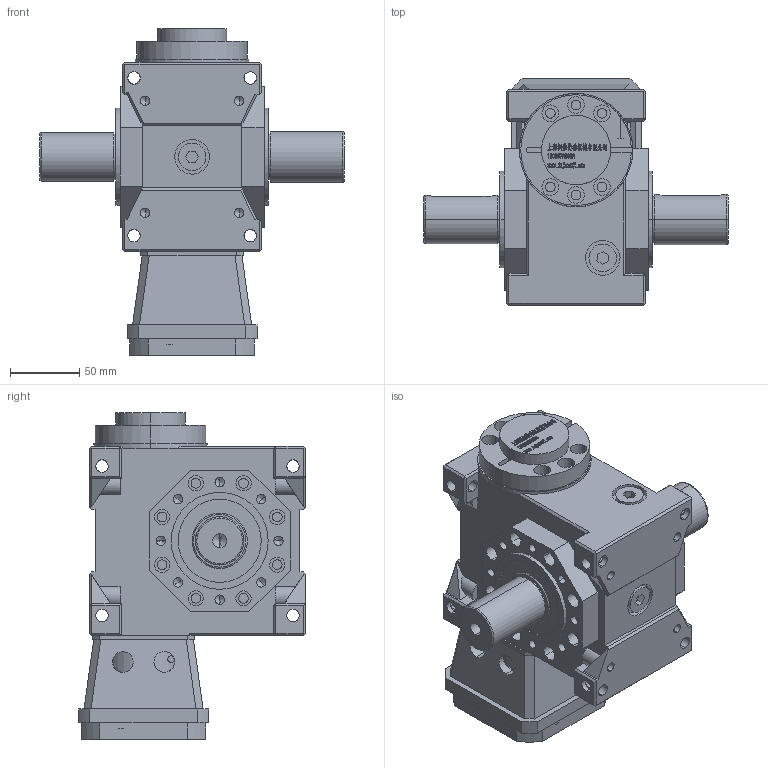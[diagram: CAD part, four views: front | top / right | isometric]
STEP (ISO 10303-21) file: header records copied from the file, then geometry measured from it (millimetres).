
FILE_DESCRIPTION (( 'STEP AP203' ), '1' );
FILE_NAME ('FXLB050-(5~90)-AB-19-70-90-M6.step', '2022-11-06T03:50:53', ( '' ), ( '' ), 'SwSTEP 2.0', 'SolidWorks 2020', '' );
FILE_SCHEMA (( 'CONFIG_CONTROL_DESIGN' ));
Length unit declared in the file: millimetre
Products named in the file (8): JDLB050-AB________35.step; FXLB050-(5~90)-AB-19-70-90-M6; ______BD56-60-19-15____.step; 錨璃178^FXLB050-(5~90)-AB-19-70-90-M6; ST90-70-90-M6____________.step; FXLB050-(5~90)-AB-19-70-90-M6.step; JDLB050-ST94________.step; JDLB050-CR____.step
Assembly tree (7 placements, depth 3):
  FXLB050-(5~90)-AB-19-70-90-M6
    FXLB050-(5~90)-AB-19-70-90-M6.step
      JDLB050-CR____.step
      JDLB050-ST94________.step
      ST90-70-90-M6____________.step
      ______BD56-60-19-15____.step
      JDLB050-AB________35.step
    錨璃178^FXLB050-(5~90)-AB-19-70-90-M6
Bounding box: 219.87 x 164 x 236.2 mm (x, y, z)
Volume: 2365125.2 mm3; surface area: 318689.3 mm2
Topology: 82 solids, 82 shells, 2667 faces, 7025 edges, 4586 vertices
Faces by surface type: plane 1558, bspline 572, cylinder 433, cone 80, torus 24
Entity records: 110092 total; most frequent: CARTESIAN_POINT 46797, ORIENTED_EDGE 13922, DIRECTION 10878, EDGE_CURVE 6961, LINE 4782, VECTOR 4782, VERTEX_POINT 4586, AXIS2_PLACEMENT_3D 3048
